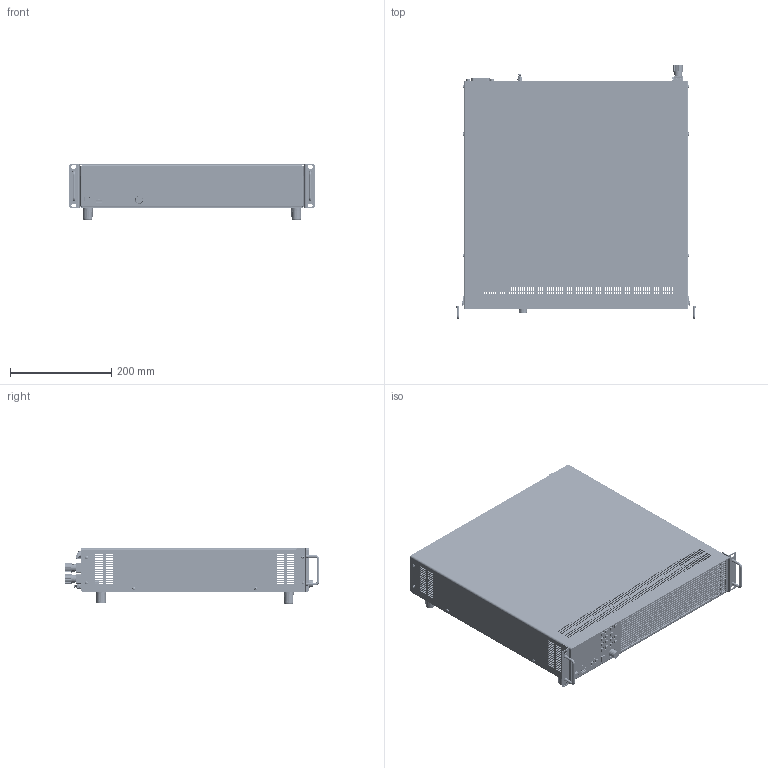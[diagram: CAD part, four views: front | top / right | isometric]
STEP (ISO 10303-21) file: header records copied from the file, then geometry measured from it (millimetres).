
FILE_DESCRIPTION(('STEP AP214'),'1');
FILE_NAME('PLI_M7_19Z_2HE_BPK4_30L_3D_02.step','2024-05-16T09:47:18',(' '),(' '),'Spatial InterOp 3D',' ',' ');
FILE_SCHEMA(('AUTOMOTIVE_DESIGN { 1 0 10303 214 1 1 1 1 }'));
Length unit declared in the file: millimetre
Products named in the file (20): 1458_PLI_19_Zoll_Boden_3D_03; 1617_PLI Frontplatte 19 mit SIL Tastatur_3D_03_mit_Einbauten_und_Overlay_BRB; A$C2C745159; PLI_Frontplatteneinbauten_nur_für_3D_Modellkonstruktion_3D; AutoCreatedBlock_1909; 1460_PLI_19_Zoll_Rückwand_3D_06_mit_Einbauten_BPK4_30L_BRB_02; 1F840730; 1E5E0040; *U710; *U711; *U712; 1460_PLI_19_Zoll_Rückwand_3D_06; PEM_M3_; AutoCreatedBlock_1927; 3xM2.5_5x5x12; AutoCreatedBlock_1915; 459_PLI_19_Zoll_Deckel_3D_03; DIN 965-A; AutoCreatedBlock_1903
Assembly tree (33 placements, depth 4):
  (unnamed)
    1458_PLI_19_Zoll_Boden_3D_03
    1617_PLI Frontplatte 19 mit SIL Tastatur_3D_03_mit_Einbauten_und_Overlay_BRB
      A$C2C745159
      PLI_Frontplatteneinbauten_nur_für_3D_Modellkonstruktion_3D
      AutoCreatedBlock_1909
    1460_PLI_19_Zoll_Rückwand_3D_06_mit_Einbauten_BPK4_30L_BRB_02
      1F840730  x2
      1E5E0040
      *U710
      *U711  x4
      *U712  x2
      1460_PLI_19_Zoll_Rückwand_3D_06
        PEM_M3_  x7
        AutoCreatedBlock_1927
      3xM2.5_5x5x12
      AutoCreatedBlock_1915
    459_PLI_19_Zoll_Deckel_3D_03
    DIN 965-A  x4
    AutoCreatedBlock_1903
Bounding box: 483.4 x 501.22 x 109.75 mm (x, y, z)
Volume: 969647.6 mm3; surface area: 1320896 mm2
Topology: 140 solids, 756 shells, 14649 faces, 41143 edges, 28163 vertices
Faces by surface type: plane 8793, cone 3048, cylinder 2301, bspline 205, torus 198, sphere 102, extrusion 2
Entity records: 574690 total; most frequent: CARTESIAN_POINT 103513, DIRECTION 72471, ORIENTED_EDGE 71322, EDGE_CURVE 37521, VECTOR 28259, LINE 28257, VERTEX_POINT 25103, AXIS2_PLACEMENT_3D 22106
